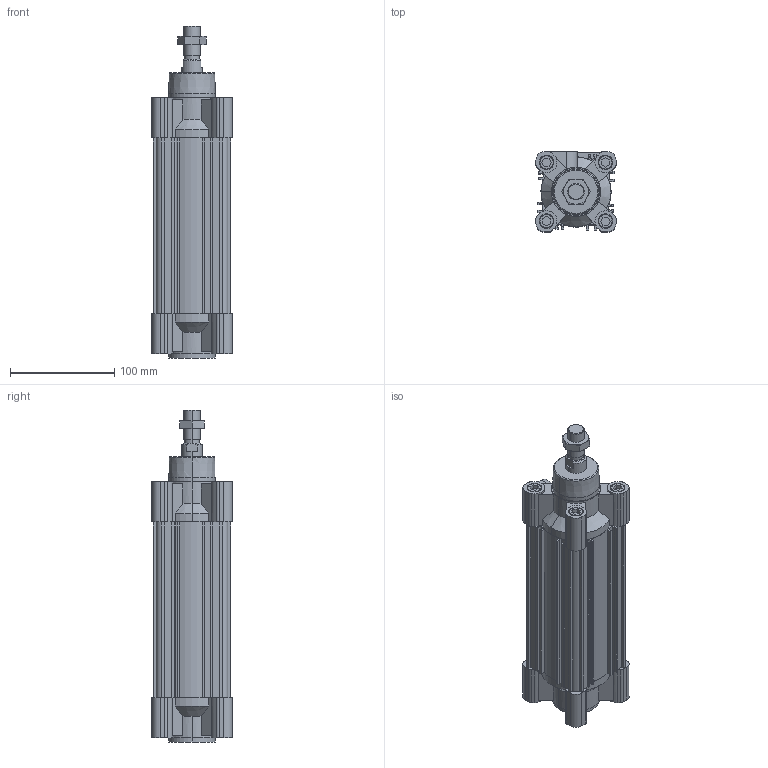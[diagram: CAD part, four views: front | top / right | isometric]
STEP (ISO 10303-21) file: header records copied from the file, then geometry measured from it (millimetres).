
FILE_DESCRIPTION (( 'STEP AP214' ), '1' );
FILE_NAME ('CP96SDB63-125C.step.step', '2020-11-21T22:08:36', ( '' ), ( '' ), 'SwSTEP 2.0', 'SolidWorks 2020', '' );
FILE_SCHEMA (( 'AUTOMOTIVE_DESIGN' ));
Length unit declared in the file: millimetre
Products named in the file (7): CP96SDB63-125C.step_Rod_Nut_16x1.5; CP96SDB63-125C.step_Tie-rod_63; CP96SDB63-125C.step; CP96SDB63-125C.step_63_Rod_Cover; CP96SDB63-125C.step_CP96_Cylinder_63; CP96SDB63-125C.step_C96_Rod_63; CP96SDB63-125C.step_63_Head_Cover_63
Assembly tree (9 placements, depth 2):
  CP96SDB63-125C.step
    CP96SDB63-125C.step_CP96_Cylinder_63
    CP96SDB63-125C.step_63_Rod_Cover
    CP96SDB63-125C.step_63_Head_Cover_63
    CP96SDB63-125C.step_Tie-rod_63  x4
    CP96SDB63-125C.step_C96_Rod_63
    CP96SDB63-125C.step_Rod_Nut_16x1.5
Bounding box: 77 x 77 x 319 mm (x, y, z)
Volume: 1016970.7 mm3; surface area: 238942.9 mm2
Topology: 9 solids, 9 shells, 521 faces, 1336 edges, 866 vertices
Faces by surface type: plane 279, cylinder 152, cone 88, torus 2
Entity records: 14020 total; most frequent: CARTESIAN_POINT 2617, DIRECTION 2380, ORIENTED_EDGE 2292, EDGE_CURVE 1146, AXIS2_PLACEMENT_3D 833, VERTEX_POINT 746, LINE 714, VECTOR 714
